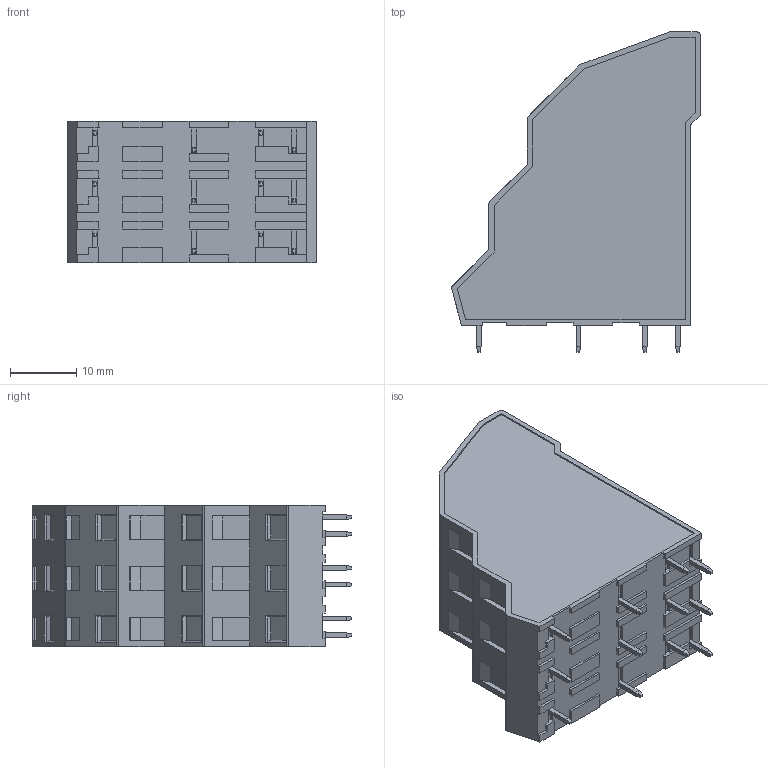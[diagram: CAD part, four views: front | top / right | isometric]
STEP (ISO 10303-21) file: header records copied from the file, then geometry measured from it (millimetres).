
FILE_DESCRIPTION((''),'2;1');
FILE_NAME('HS0350800000G_SW0001','2019-06-05T',('zhenbing.lai'),(''),'CREO PARAMETRIC BY PTC INC, 2016260','CREO PARAMETRIC BY PTC INC, 2016260','');
FILE_SCHEMA(('CONFIG_CONTROL_DESIGN'));
Length unit declared in the file: millimetre
Products named in the file (1): HS0350800000G_SW0001
Bounding box: 37.5 x 48.2 x 21.32 mm (x, y, z)
Volume: 24100.6 mm3; surface area: 6107.1 mm2
Topology: 1 solids, 10 shells, 550 faces, 1437 edges, 941 vertices
Faces by surface type: plane 515, cylinder 32, cone 3
Entity records: 16579 total; most frequent: CARTESIAN_POINT 2988, ORIENTED_EDGE 2874, DIRECTION 2600, EDGE_CURVE 1437, VECTOR 1340, LINE 1340, VERTEX_POINT 941, AXIS2_PLACEMENT_3D 630
